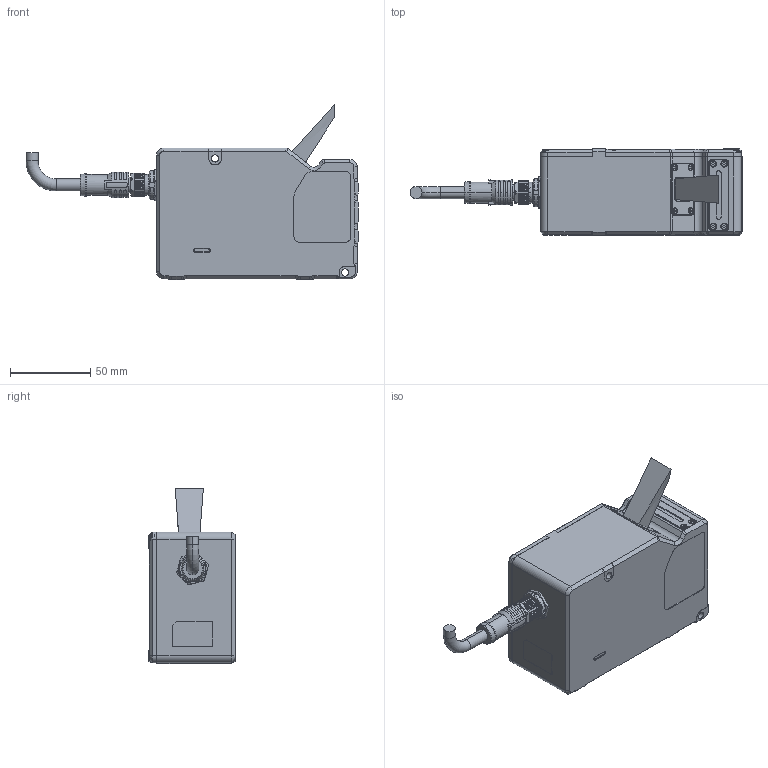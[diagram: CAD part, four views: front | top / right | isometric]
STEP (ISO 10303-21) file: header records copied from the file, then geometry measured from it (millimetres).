
FILE_DESCRIPTION((''),'2;1');
FILE_NAME('PRT0012','2026-05-20T18:08:24',('wangjiayi28'),(''),'CREO PARAMETRIC BY PTC INC, 2020044','CREO PARAMETRIC BY PTC INC, 2020044','');
FILE_SCHEMA(('AUTOMOTIVE_DESIGN { 1 0 10303 214 1 1 1 1 }'));
Products named in the file (1): PRT0012
Bounding box: 206.75 x 54 x 109.2 mm (x, y, z)
Volume: 1924.5 mm3; surface area: 52591.4 mm2
Topology: 1 solids, 40 shells, 934 faces, 2894 edges, 1974 vertices
Faces by surface type: plane 394, cylinder 290, cone 159, torus 53, bspline 37, extrusion 1
Entity records: 51384 total; most frequent: CARTESIAN_POINT 26395, ORIENTED_EDGE 5179, DIRECTION 4928, EDGE_CURVE 2868, VERTEX_POINT 1974, AXIS2_PLACEMENT_3D 1783, VECTOR 1362, LINE 1361
